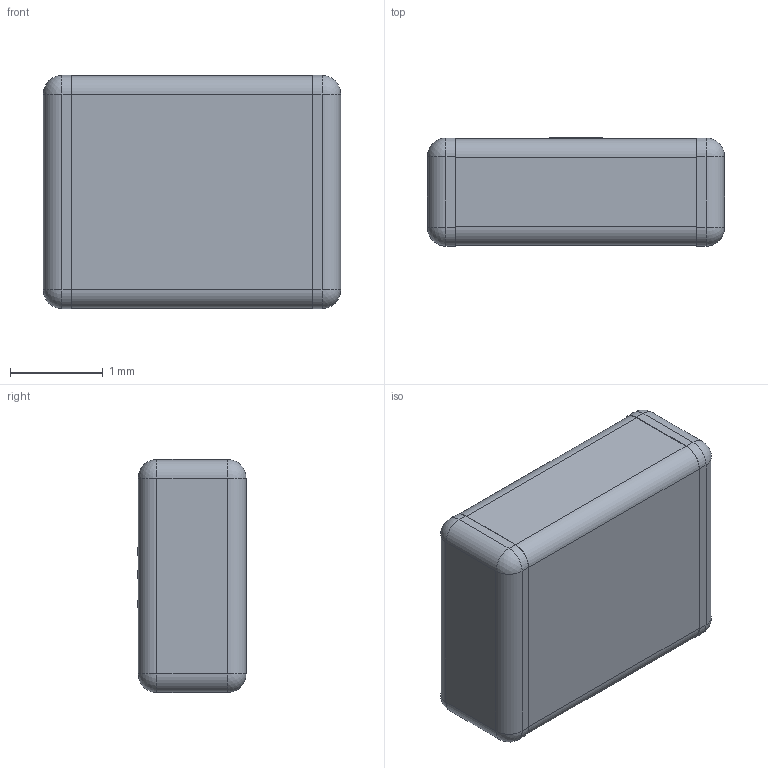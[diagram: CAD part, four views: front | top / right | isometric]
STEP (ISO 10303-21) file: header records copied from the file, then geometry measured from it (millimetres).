
FILE_DESCRIPTION((''),'2;1');
FILE_NAME('CAP_1210_T115_CERAMIC','2024-11-10T18:14:44',('Roger'),(''),'CREO PARAMETRIC BY PTC INC, 2020053','CREO PARAMETRIC BY PTC INC, 2020053','');
FILE_SCHEMA(('CONFIG_CONTROL_DESIGN'));
Length unit declared in the file: millimetre
Products named in the file (1): CAP_1210_T115_CERAMIC
Bounding box: 3.2 x 1.17 x 2.51 mm (x, y, z)
Volume: 9 mm3; surface area: 27 mm2
Topology: 1 solids, 1 shells, 687 faces, 1938 edges, 1284 vertices
Faces by surface type: plane 659, cylinder 20, sphere 8
Entity records: 21778 total; most frequent: CARTESIAN_POINT 3909, ORIENTED_EDGE 3876, DIRECTION 3352, EDGE_CURVE 1938, VECTOR 1898, LINE 1898, VERTEX_POINT 1284, AXIS2_PLACEMENT_3D 727
